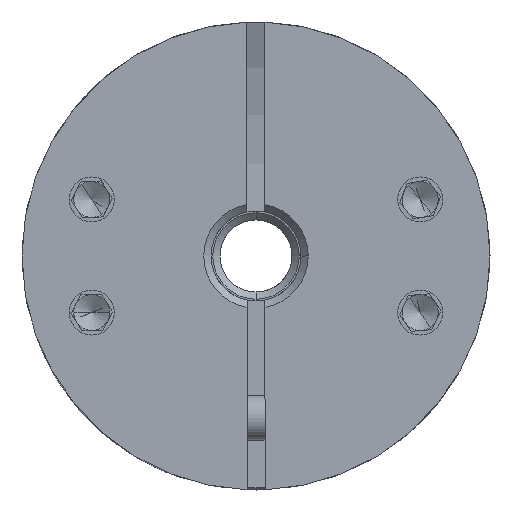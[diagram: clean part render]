
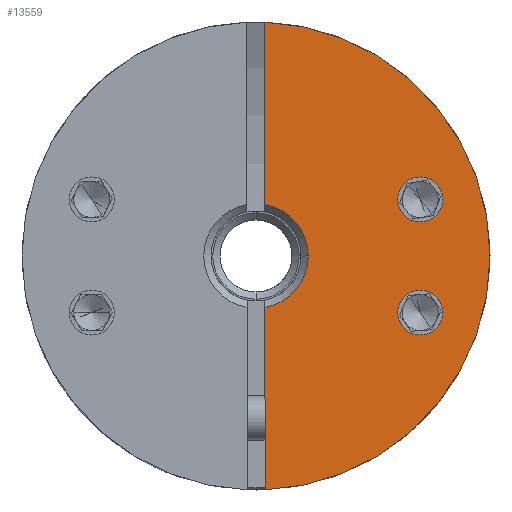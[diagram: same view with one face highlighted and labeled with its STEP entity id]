
A CAD part, front view. The second image highlights one B-rep face of the part: STEP entity #13559.
In plain terms, the highlighted planar face has unit normal (0, -1, 0).
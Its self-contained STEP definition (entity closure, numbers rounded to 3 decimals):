
#30 = CIRCLE ( 'NONE', #22464, 1.25 ) ;
#153 = ORIENTED_EDGE ( 'NONE', *, *, #18590, .T. ) ;
#644 = CARTESIAN_POINT ( 'NONE',  ( 9.63, -26.289, -3.142 ) ) ;
#778 = ORIENTED_EDGE ( 'NONE', *, *, #18520, .T. ) ;
#893 = EDGE_CURVE ( 'NONE', #13262, #20910, #6216, .T. ) ;
#965 = ORIENTED_EDGE ( 'NONE', *, *, #6167, .T. ) ;
#1252 = ORIENTED_EDGE ( 'NONE', *, *, #20332, .T. ) ;
#1351 = CIRCLE ( 'NONE', #9622, 13. ) ;
#2193 = FACE_BOUND ( 'NONE', #9913, .T. ) ;
#2424 = CIRCLE ( 'NONE', #18882, 1.25 ) ;
#2519 = CARTESIAN_POINT ( 'NONE',  ( 4.655, -26.289, 0. ) ) ;
#2783 = VERTEX_POINT ( 'NONE', #5817 ) ;
#2904 = DIRECTION ( 'NONE',  ( 0., -1., 0. ) ) ;
#2907 = CARTESIAN_POINT ( 'NONE',  ( 10.88, -26.289, 3.142 ) ) ;
#2984 = CARTESIAN_POINT ( 'NONE',  ( 1.755, -26.289, 0. ) ) ;
#3654 = DIRECTION ( 'NONE',  ( 1., 0., 0. ) ) ;
#4014 = CARTESIAN_POINT ( 'NONE',  ( 1.755, -26.289, 0. ) ) ;
#4563 = AXIS2_PLACEMENT_3D ( 'NONE', #7748, #9803, #18666 ) ;
#4589 = CARTESIAN_POINT ( 'NONE',  ( 2.255, -26.289, 5. ) ) ;
#4591 = DIRECTION ( 'NONE',  ( 1., 0., 0. ) ) ;
#4673 = CARTESIAN_POINT ( 'NONE',  ( 14.755, -26.289, 0. ) ) ;
#4915 = ORIENTED_EDGE ( 'NONE', *, *, #11620, .T. ) ;
#4985 = ORIENTED_EDGE ( 'NONE', *, *, #22557, .T. ) ;
#5091 = ORIENTED_EDGE ( 'NONE', *, *, #20772, .T. ) ;
#5225 = AXIS2_PLACEMENT_3D ( 'NONE', #8730, #23033, #3654 ) ;
#5335 = CIRCLE ( 'NONE', #4563, 13. ) ;
#5423 = VERTEX_POINT ( 'NONE', #11650 ) ;
#5691 = DIRECTION ( 'NONE',  ( 1., 0., 0. ) ) ;
#5794 = DIRECTION ( 'NONE',  ( 1., 0., 0. ) ) ;
#5817 = CARTESIAN_POINT ( 'NONE',  ( 2.255, -26.289, -12.99 ) ) ;
#6099 = FACE_BOUND ( 'NONE', #6439, .T. ) ;
#6158 = CARTESIAN_POINT ( 'NONE',  ( 9.63, -26.289, 3.142 ) ) ;
#6167 = EDGE_CURVE ( 'NONE', #5423, #15841, #2424, .T. ) ;
#6216 = CIRCLE ( 'NONE', #5225, 2.9 ) ;
#6382 = DIRECTION ( 'NONE',  ( 0., 1., 0. ) ) ;
#6439 = EDGE_LOOP ( 'NONE', ( #5091, #20747 ) ) ;
#6531 = CARTESIAN_POINT ( 'NONE',  ( 2.255, -26.289, -2.857 ) ) ;
#7533 = CARTESIAN_POINT ( 'NONE',  ( 10.88, -26.289, -3.142 ) ) ;
#7748 = CARTESIAN_POINT ( 'NONE',  ( 1.755, -26.289, 0. ) ) ;
#7777 = VERTEX_POINT ( 'NONE', #4673 ) ;
#7940 = LINE ( 'NONE', #15012, #19014 ) ;
#7958 = CARTESIAN_POINT ( 'NONE',  ( 10.88, -26.289, -3.142 ) ) ;
#8189 = EDGE_CURVE ( 'NONE', #20610, #20379, #17358, .T. ) ;
#8420 = DIRECTION ( 'NONE',  ( 0., 1., 0. ) ) ;
#8730 = CARTESIAN_POINT ( 'NONE',  ( 1.755, -26.289, 0. ) ) ;
#9534 = DIRECTION ( 'NONE',  ( 0., 1., 0. ) ) ;
#9622 = AXIS2_PLACEMENT_3D ( 'NONE', #2984, #2904, #22411 ) ;
#9803 = DIRECTION ( 'NONE',  ( 0., -1., 0. ) ) ;
#9913 = EDGE_LOOP ( 'NONE', ( #153, #965 ) ) ;
#10107 = AXIS2_PLACEMENT_3D ( 'NONE', #4014, #9534, #5794 ) ;
#10108 = DIRECTION ( 'NONE',  ( 1., 0., 0. ) ) ;
#10550 = VECTOR ( 'NONE', #13315, 1000. ) ;
#10643 = CARTESIAN_POINT ( 'NONE',  ( 2.255, -26.289, 12.99 ) ) ;
#11041 = CIRCLE ( 'NONE', #21911, 1.25 ) ;
#11103 = DIRECTION ( 'NONE',  ( 0., -1., 0. ) ) ;
#11580 = EDGE_CURVE ( 'NONE', #18905, #13262, #21135, .T. ) ;
#11620 = EDGE_CURVE ( 'NONE', #7777, #18905, #1351, .T. ) ;
#11650 = CARTESIAN_POINT ( 'NONE',  ( 12.13, -26.289, 3.142 ) ) ;
#12989 = PLANE ( 'NONE',  #22030 ) ;
#13138 = CARTESIAN_POINT ( 'NONE',  ( 1.755, -26.289, 0. ) ) ;
#13262 = VERTEX_POINT ( 'NONE', #20920 ) ;
#13315 = DIRECTION ( 'NONE',  ( 0., 0., -1. ) ) ;
#13371 = DIRECTION ( 'NONE',  ( 1., 0., 0. ) ) ;
#13559 = ADVANCED_FACE ( 'NONE', ( #19732, #2193, #6099 ), #12989, .T. ) ;
#13653 = CARTESIAN_POINT ( 'NONE',  ( 12.13, -26.289, -3.142 ) ) ;
#14967 = CIRCLE ( 'NONE', #10107, 2.9 ) ;
#15012 = CARTESIAN_POINT ( 'NONE',  ( 2.255, -26.289, 5. ) ) ;
#15841 = VERTEX_POINT ( 'NONE', #6158 ) ;
#16113 = AXIS2_PLACEMENT_3D ( 'NONE', #7958, #6382, #13371 ) ;
#17358 = CIRCLE ( 'NONE', #16113, 1.25 ) ;
#18520 = EDGE_CURVE ( 'NONE', #2783, #7777, #5335, .T. ) ;
#18590 = EDGE_CURVE ( 'NONE', #15841, #5423, #30, .T. ) ;
#18666 = DIRECTION ( 'NONE',  ( 1., 0., 0. ) ) ;
#18821 = DIRECTION ( 'NONE',  ( 0., 1., 0. ) ) ;
#18882 = AXIS2_PLACEMENT_3D ( 'NONE', #20773, #18821, #10108 ) ;
#18905 = VERTEX_POINT ( 'NONE', #10643 ) ;
#18925 = ORIENTED_EDGE ( 'NONE', *, *, #11580, .T. ) ;
#19014 = VECTOR ( 'NONE', #20369, 1000. ) ;
#19220 = EDGE_LOOP ( 'NONE', ( #18925, #21023, #1252, #4985, #778, #4915 ) ) ;
#19732 = FACE_OUTER_BOUND ( 'NONE', #19220, .T. ) ;
#20010 = DIRECTION ( 'NONE',  ( 0., 1., 0. ) ) ;
#20131 = DIRECTION ( 'NONE',  ( 1., 0., 0. ) ) ;
#20332 = EDGE_CURVE ( 'NONE', #20910, #22705, #14967, .T. ) ;
#20369 = DIRECTION ( 'NONE',  ( 0., 0., -1. ) ) ;
#20379 = VERTEX_POINT ( 'NONE', #644 ) ;
#20610 = VERTEX_POINT ( 'NONE', #13653 ) ;
#20747 = ORIENTED_EDGE ( 'NONE', *, *, #8189, .T. ) ;
#20772 = EDGE_CURVE ( 'NONE', #20379, #20610, #11041, .T. ) ;
#20773 = CARTESIAN_POINT ( 'NONE',  ( 10.88, -26.289, 3.142 ) ) ;
#20910 = VERTEX_POINT ( 'NONE', #2519 ) ;
#20920 = CARTESIAN_POINT ( 'NONE',  ( 2.255, -26.289, 2.857 ) ) ;
#21023 = ORIENTED_EDGE ( 'NONE', *, *, #893, .T. ) ;
#21135 = LINE ( 'NONE', #4589, #10550 ) ;
#21911 = AXIS2_PLACEMENT_3D ( 'NONE', #7533, #20010, #5691 ) ;
#22030 = AXIS2_PLACEMENT_3D ( 'NONE', #13138, #11103, #20131 ) ;
#22411 = DIRECTION ( 'NONE',  ( 1., 0., 0. ) ) ;
#22464 = AXIS2_PLACEMENT_3D ( 'NONE', #2907, #8420, #4591 ) ;
#22557 = EDGE_CURVE ( 'NONE', #22705, #2783, #7940, .T. ) ;
#22705 = VERTEX_POINT ( 'NONE', #6531 ) ;
#23033 = DIRECTION ( 'NONE',  ( 0., 1., 0. ) ) ;
